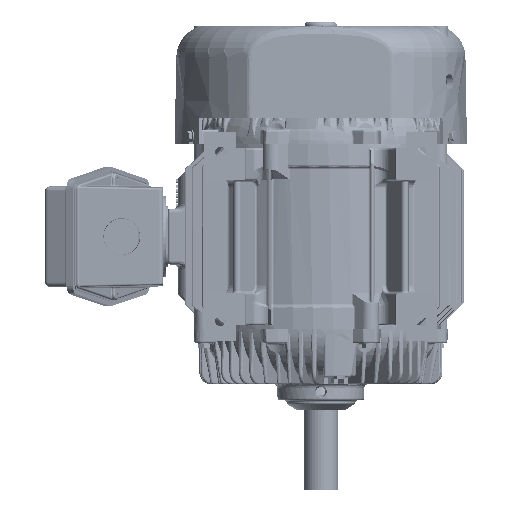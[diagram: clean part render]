
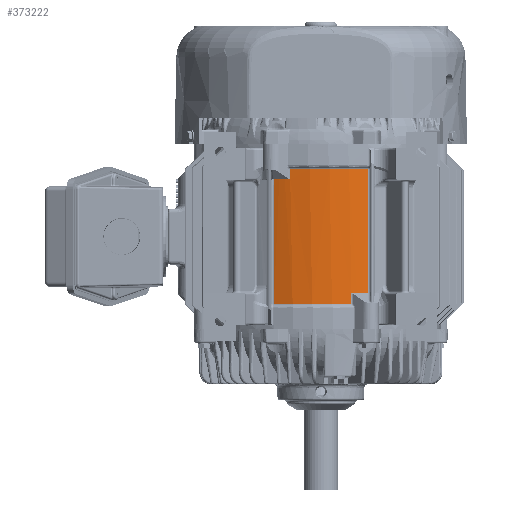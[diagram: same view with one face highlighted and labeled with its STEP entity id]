
A CAD part, front view. The second image highlights one B-rep face of the part: STEP entity #373222.
In plain terms, the highlighted cylindrical face has radius 187.071 mm (diameter 374.142 mm), a partial arc.
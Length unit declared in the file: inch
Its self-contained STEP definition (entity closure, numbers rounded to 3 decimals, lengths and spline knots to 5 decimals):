
#4953 = VERTEX_POINT ( 'NONE', #389821 ) ;
#7577 = EDGE_CURVE ( 'NONE', #4953, #380476, #374139, .T. ) ;
#12685 = VECTOR ( 'NONE', #28220, 39.37008 ) ;
#22143 = CARTESIAN_POINT ( 'NONE',  ( -1.90154, -7.11529, -8.88445 ) ) ;
#27431 = DIRECTION ( 'NONE',  ( 0., 0., 1. ) ) ;
#28220 = DIRECTION ( 'NONE',  ( 0., 0., -1. ) ) ;
#33595 = DIRECTION ( 'NONE',  ( 0., 0., -1. ) ) ;
#41070 = CIRCLE ( 'NONE', #254001, 7.365 ) ;
#48979 = CARTESIAN_POINT ( 'NONE',  ( 0., 0., -8.88445 ) ) ;
#55652 = VERTEX_POINT ( 'NONE', #265986 ) ;
#67855 = ORIENTED_EDGE ( 'NONE', *, *, #107263, .T. ) ;
#75552 = CARTESIAN_POINT ( 'NONE',  ( 0., 0., -16.63579 ) ) ;
#76017 = CARTESIAN_POINT ( 'NONE',  ( 0., 0., -15.97655 ) ) ;
#81700 = EDGE_CURVE ( 'NONE', #246088, #183429, #166126, .T. ) ;
#88526 = EDGE_CURVE ( 'NONE', #285313, #55652, #135740, .T. ) ;
#97979 = VERTEX_POINT ( 'NONE', #334090 ) ;
#98346 = FACE_OUTER_BOUND ( 'NONE', #246542, .T. ) ;
#99001 = AXIS2_PLACEMENT_3D ( 'NONE', #108189, #291744, #385655 ) ;
#105516 = CIRCLE ( 'NONE', #318900, 7.365 ) ;
#107263 = EDGE_CURVE ( 'NONE', #55652, #4953, #41070, .T. ) ;
#108189 = CARTESIAN_POINT ( 'NONE',  ( 0., 0., -8.25521 ) ) ;
#111547 = AXIS2_PLACEMENT_3D ( 'NONE', #118563, #233582, #147713 ) ;
#113356 = EDGE_CURVE ( 'NONE', #183429, #285313, #105516, .T. ) ;
#114525 = LINE ( 'NONE', #200792, #157056 ) ;
#118563 = CARTESIAN_POINT ( 'NONE',  ( 0., 0., -12.4455 ) ) ;
#128729 = VERTEX_POINT ( 'NONE', #234067 ) ;
#135036 = ORIENTED_EDGE ( 'NONE', *, *, #113356, .T. ) ;
#135740 = LINE ( 'NONE', #323272, #12685 ) ;
#138845 = EDGE_CURVE ( 'NONE', #128729, #246088, #365116, .T. ) ;
#146210 = EDGE_CURVE ( 'NONE', #97979, #128729, #114525, .T. ) ;
#147713 = DIRECTION ( 'NONE',  ( -1., 0., 0. ) ) ;
#156020 = CIRCLE ( 'NONE', #260115, 7.365 ) ;
#157056 = VECTOR ( 'NONE', #326201, 39.37008 ) ;
#164861 = CARTESIAN_POINT ( 'NONE',  ( -1.90154, -7.11529, -8.25521 ) ) ;
#165484 = DIRECTION ( 'NONE',  ( 0., 0., 1. ) ) ;
#165519 = ORIENTED_EDGE ( 'NONE', *, *, #146210, .T. ) ;
#166126 = LINE ( 'NONE', #305896, #288831 ) ;
#172426 = DIRECTION ( 'NONE',  ( 0., 0., 1. ) ) ;
#178749 = CYLINDRICAL_SURFACE ( 'NONE', #111547, 7.365 ) ;
#183429 = VERTEX_POINT ( 'NONE', #22143 ) ;
#190376 = CARTESIAN_POINT ( 'NONE',  ( -2.9208, -6.76108, -8.88445 ) ) ;
#200792 = CARTESIAN_POINT ( 'NONE',  ( 2.9208, -6.76108, -12.4455 ) ) ;
#201093 = DIRECTION ( 'NONE',  ( 1., 0., 0. ) ) ;
#208648 = CARTESIAN_POINT ( 'NONE',  ( 1.90154, -7.11529, -12.4455 ) ) ;
#216879 = ORIENTED_EDGE ( 'NONE', *, *, #81700, .T. ) ;
#225738 = EDGE_CURVE ( 'NONE', #380476, #97979, #156020, .T. ) ;
#226429 = ORIENTED_EDGE ( 'NONE', *, *, #225738, .T. ) ;
#227889 = DIRECTION ( 'NONE',  ( -1., 0., 0. ) ) ;
#233582 = DIRECTION ( 'NONE',  ( 0., 0., -1. ) ) ;
#234067 = CARTESIAN_POINT ( 'NONE',  ( 2.9208, -6.76108, -8.25521 ) ) ;
#246088 = VERTEX_POINT ( 'NONE', #164861 ) ;
#246542 = EDGE_LOOP ( 'NONE', ( #226429, #165519, #345379, #216879, #135036, #384421, #67855, #286207 ) ) ;
#254001 = AXIS2_PLACEMENT_3D ( 'NONE', #75552, #165484, #374360 ) ;
#260115 = AXIS2_PLACEMENT_3D ( 'NONE', #76017, #172426, #227889 ) ;
#261700 = DIRECTION ( 'NONE',  ( 0., 0., -1. ) ) ;
#265986 = CARTESIAN_POINT ( 'NONE',  ( -2.9208, -6.76108, -16.63579 ) ) ;
#282924 = CARTESIAN_POINT ( 'NONE',  ( 1.90154, -7.11529, -15.97655 ) ) ;
#285313 = VERTEX_POINT ( 'NONE', #190376 ) ;
#286207 = ORIENTED_EDGE ( 'NONE', *, *, #7577, .T. ) ;
#288831 = VECTOR ( 'NONE', #33595, 39.37008 ) ;
#291744 = DIRECTION ( 'NONE',  ( 0., 0., -1. ) ) ;
#293579 = VECTOR ( 'NONE', #27431, 39.37008 ) ;
#305896 = CARTESIAN_POINT ( 'NONE',  ( -1.90154, -7.11529, -12.4455 ) ) ;
#318900 = AXIS2_PLACEMENT_3D ( 'NONE', #48979, #261700, #201093 ) ;
#323272 = CARTESIAN_POINT ( 'NONE',  ( -2.9208, -6.76108, -12.4455 ) ) ;
#326201 = DIRECTION ( 'NONE',  ( 0., 0., 1. ) ) ;
#334090 = CARTESIAN_POINT ( 'NONE',  ( 2.9208, -6.76108, -15.97655 ) ) ;
#345379 = ORIENTED_EDGE ( 'NONE', *, *, #138845, .T. ) ;
#365116 = CIRCLE ( 'NONE', #99001, 7.365 ) ;
#373222 = ADVANCED_FACE ( 'NONE', ( #98346 ), #178749, .T. ) ;
#374139 = LINE ( 'NONE', #208648, #293579 ) ;
#374360 = DIRECTION ( 'NONE',  ( -1., 0., 0. ) ) ;
#380476 = VERTEX_POINT ( 'NONE', #282924 ) ;
#384421 = ORIENTED_EDGE ( 'NONE', *, *, #88526, .T. ) ;
#385655 = DIRECTION ( 'NONE',  ( -1., 0., 0. ) ) ;
#389821 = CARTESIAN_POINT ( 'NONE',  ( 1.90154, -7.11529, -16.63579 ) ) ;
